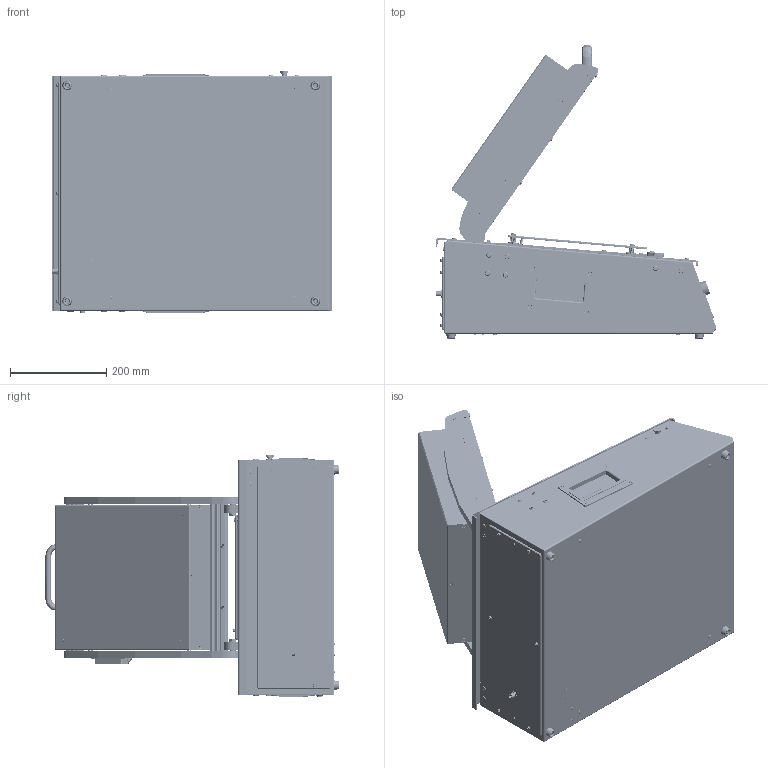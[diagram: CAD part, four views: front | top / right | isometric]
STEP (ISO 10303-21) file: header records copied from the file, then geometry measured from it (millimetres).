
FILE_DESCRIPTION (( 'STEP AP214' ), '1' );
FILE_NAME ('ARF-UPe-P-NSHA2-P&P - ouvert.STEP', '2026-09-29T07:37:38', ( '' ), ( '' ), 'SwSTEP 2.0', 'SolidWorks 2015', '' );
FILE_SCHEMA (( 'AUTOMOTIVE_DESIGN' ));
Length unit declared in the file: millimetre
Products named in the file (179): el_d3x5; M05 Hu; CIR_EXT_D9; 8122_368; KQ2U06800A; 8122_121; d11960; TCBL TORX M4X10; RM_5; AS1002F-06A; ehmf_4x10; 8122_113_version C; chc_03x05; M04 Ef; az_03; chc_04x12; 8122_149; 8007_042; BPS33-Schmersal; F Torx 04x18; Insert M3; Tête moltée M5; 8122_128 - STEP_DROITE; ehmf_4x50; M03 Hu; CIR_EXT_D8; chc_04x14; 25 MA Nut1; F Torx 03x12; 8122_337; 8122_125; 8122_132 - STEP; gd4x08; 8122_007_Version C; F Torx 03x06; 8122_206; RM_6; Rd Cuv pleine M4; 8007_070; 8122_001 - STEP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
Assembly tree (533 placements, depth 5):
  ARF-UPe-P-NSHA2-P&P - ouvert
    8122_002
      8122_125
        8122_125
        eac_m4  x24
        eac_m5  x4
      8122_007_Version C
        8122_112_version C
        8122_113_version C
        Tête moltée M5
        ASR_T030180172L
        M05 Hu
        F Torx 04x14  x2
        chc_05x40
        Rd Cuv pleine M4  x2
        el_d5x5
        gd5x20
        gd4x20
      8122_162  x2
      8131_110 (PlaqueID)
      8122_161  x2
      poignée pliable  x2
      048_2000_114_07  x4
      54-1-3029_01  x2
      CIR_EXT_D5.6  x2
      chc_02,5x20  x2
      M02.5 h  x2
      M03 Hu
      F Torx 03x12
      az_03
      Rd Cuv pleine M4  x8
      F Torx 04x18  x8
      F Torx 04x08  x8
      F Torx 05x08  x4
      TCBL TORX M4X10  x2
      RM_4  x2
      RIVET 3 COURT  x4
      chc_04x08  x4
      8007_043_
        SY5120_5LZD_01
        AN110_01  x2
        KQ2L06-01NS  x3
      pression ESD
      AS1002F-06A  x2
      230-6322
      KQ2U06800A  x2
      8007_042
        8007_070
          8007_700
          22-27-2021  x2
          22-27-2031
        ehff_3x10  x2
        chc_03x06  x4
    8122_003 - STEP_Ouvert
      8122_005 - STEP
        8122_107 - STEP
          8122_107
          eac_m5  x4
          eac_m4  x6
        8122_130  x2
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Bounding box: 582.48 x 610.27 x 503 mm (x, y, z)
Volume: 9261811 mm3; surface area: 4379339.1 mm2
Topology: 530 solids, 684 shells, 18047 faces, 45224 edges, 29009 vertices
Faces by surface type: cylinder 7532, plane 7006, cone 2570, torus 550, bspline 337, sphere 52
Entity records: 296309 total; most frequent: CARTESIAN_POINT 70478, DIRECTION 43121, ORIENTED_EDGE 40907, EDGE_CURVE 20690, AXIS2_PLACEMENT_3D 15876, VERTEX_POINT 13469, LINE 11369, VECTOR 11369
